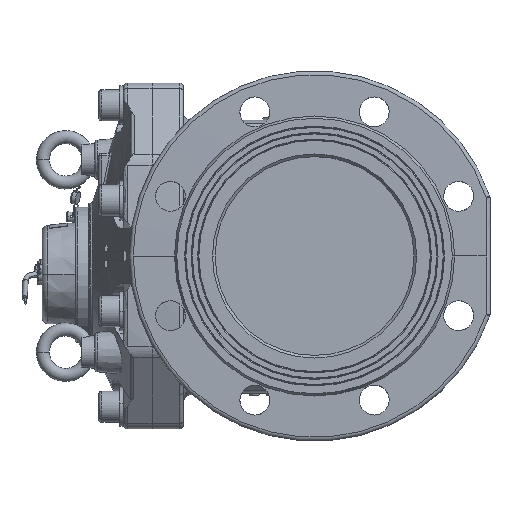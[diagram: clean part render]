
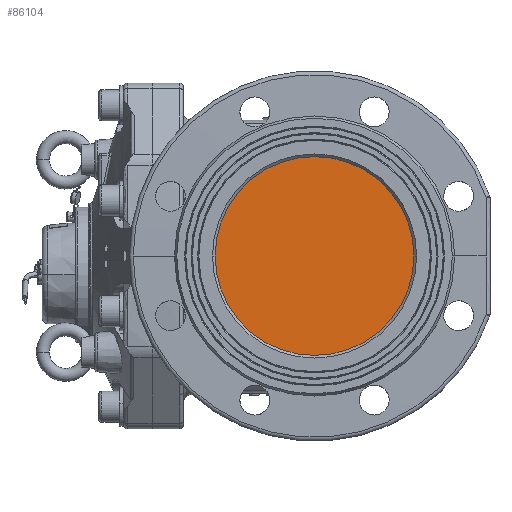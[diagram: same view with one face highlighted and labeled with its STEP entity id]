
A CAD part, left-side view. The second image highlights one B-rep face of the part: STEP entity #86104.
In plain terms, the highlighted planar face has unit normal (-1, 0, 0).
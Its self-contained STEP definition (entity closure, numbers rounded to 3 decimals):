
#5704 = CARTESIAN_POINT ( 'NONE',  ( -148., -76.5, 0. ) ) ;
#14704 = EDGE_CURVE ( 'NONE', #135200, #77236, #22104, .T. ) ;
#16221 = CIRCLE ( 'NONE', #84807, 76.5 ) ;
#22104 = CIRCLE ( 'NONE', #143942, 76.5 ) ;
#23556 = CARTESIAN_POINT ( 'NONE',  ( -148., 0., 0. ) ) ;
#34203 = EDGE_CURVE ( 'NONE', #77236, #135200, #16221, .T. ) ;
#46013 = DIRECTION ( 'NONE',  ( 0., 1., 0. ) ) ;
#57484 = PLANE ( 'NONE',  #130338 ) ;
#66706 = CARTESIAN_POINT ( 'NONE',  ( -148., 0., 0. ) ) ;
#70210 = DIRECTION ( 'NONE',  ( 1., 0., 0. ) ) ;
#77236 = VERTEX_POINT ( 'NONE', #79448 ) ;
#79448 = CARTESIAN_POINT ( 'NONE',  ( -148., 76.5, 0. ) ) ;
#84807 = AXIS2_PLACEMENT_3D ( 'NONE', #87483, #112701, #98982 ) ;
#86104 = ADVANCED_FACE ( 'NONE', ( #91224 ), #57484, .F. ) ;
#87483 = CARTESIAN_POINT ( 'NONE',  ( -148., 0., 0. ) ) ;
#91224 = FACE_OUTER_BOUND ( 'NONE', #118052, .T. ) ;
#91984 = DIRECTION ( 'NONE',  ( 1., 0., 0. ) ) ;
#93214 = ORIENTED_EDGE ( 'NONE', *, *, #14704, .F. ) ;
#96654 = ORIENTED_EDGE ( 'NONE', *, *, #34203, .F. ) ;
#98982 = DIRECTION ( 'NONE',  ( 0., 1., 0. ) ) ;
#112701 = DIRECTION ( 'NONE',  ( 1., 0., 0. ) ) ;
#118052 = EDGE_LOOP ( 'NONE', ( #96654, #93214 ) ) ;
#127587 = DIRECTION ( 'NONE',  ( 0., 1., 0. ) ) ;
#130338 = AXIS2_PLACEMENT_3D ( 'NONE', #66706, #91984, #46013 ) ;
#135200 = VERTEX_POINT ( 'NONE', #5704 ) ;
#143942 = AXIS2_PLACEMENT_3D ( 'NONE', #23556, #70210, #127587 ) ;
